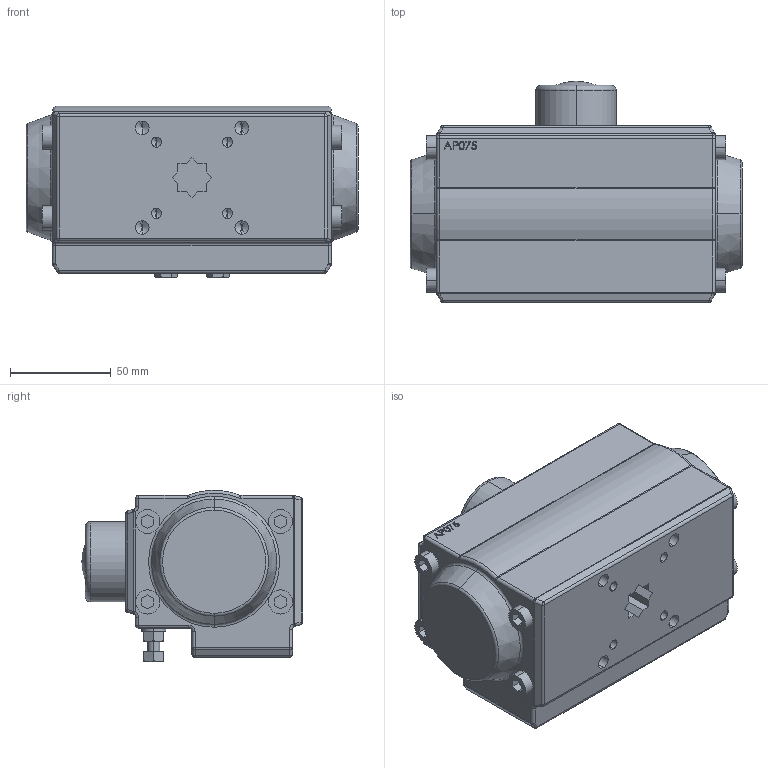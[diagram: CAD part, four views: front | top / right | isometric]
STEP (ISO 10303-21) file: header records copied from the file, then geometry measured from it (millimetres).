
FILE_DESCRIPTION (( 'STEP AP203' ), '1' );
FILE_NAME ('AP075.STEP', '2020-04-08T11:40:30', ( '' ), ( '' ), 'SwSTEP 2.0', 'SolidWorks 2017', '' );
FILE_SCHEMA (( 'CONFIG_CONTROL_DESIGN' ));
Length unit declared in the file: millimetre
Products named in the file (1): AP075
Bounding box: 165 x 110 x 85.01 mm (x, y, z)
Volume: 987915.4 mm3; surface area: 71878 mm2
Topology: 1 solids, 1 shells, 482 faces, 1143 edges, 671 vertices
Faces by surface type: plane 202, cylinder 118, cone 68, bspline 38, sphere 32, torus 24
Entity records: 15568 total; most frequent: CARTESIAN_POINT 4827, DIRECTION 2183, ORIENTED_EDGE 2182, EDGE_CURVE 1091, AXIS2_PLACEMENT_3D 771, VERTEX_POINT 671, VECTOR 641, LINE 641
